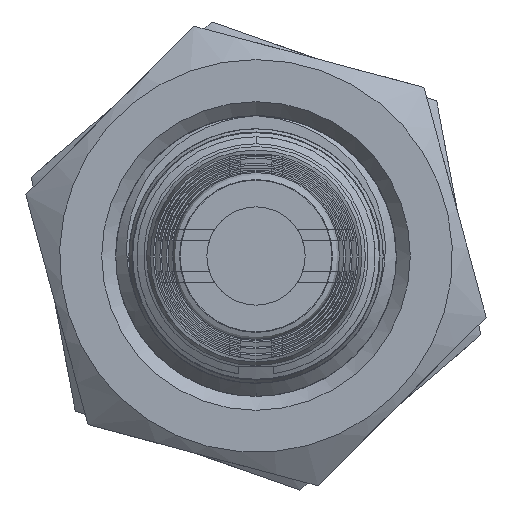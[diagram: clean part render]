
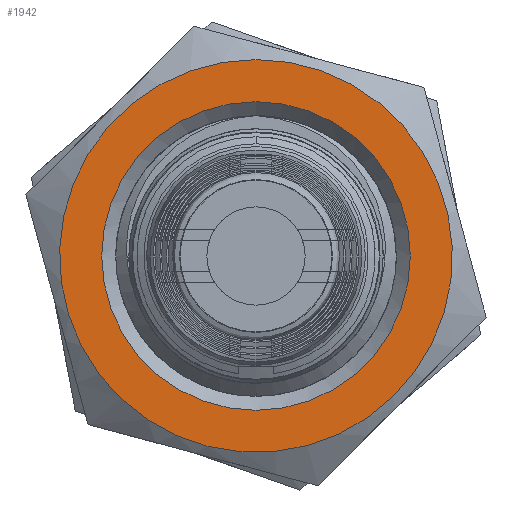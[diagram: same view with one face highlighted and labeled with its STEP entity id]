
A CAD part, front view. The second image highlights one B-rep face of the part: STEP entity #1942.
In plain terms, the highlighted planar face has unit normal (0, -1, 0).
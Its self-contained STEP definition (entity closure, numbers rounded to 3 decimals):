
#528=FACE_BOUND('',#3559,.T.);
#909=CIRCLE('',#11849,5.6);
#910=CIRCLE('',#11851,4.4);
#1942=ADVANCED_FACE('',(#528,#2911),#2444,.T.);
#2444=PLANE('',#11852);
#2911=FACE_OUTER_BOUND('',#3560,.T.);
#3559=EDGE_LOOP('',(#5328));
#3560=EDGE_LOOP('',(#5329));
#5328=ORIENTED_EDGE('',*,*,#9545,.T.);
#5329=ORIENTED_EDGE('',*,*,#9544,.T.);
#8111=VERTEX_POINT('',#20034);
#8112=VERTEX_POINT('',#20037);
#9544=EDGE_CURVE('',#8111,#8111,#909,.T.);
#9545=EDGE_CURVE('',#8112,#8112,#910,.T.);
#11849=AXIS2_PLACEMENT_3D('',#20033,#13509,#13510);
#11851=AXIS2_PLACEMENT_3D('',#20036,#13513,#13514);
#11852=AXIS2_PLACEMENT_3D('',#20038,#13515,#13516);
#13509=DIRECTION('',(0.,-1.,0.));
#13510=DIRECTION('',(0.,0.,1.));
#13513=DIRECTION('',(0.,1.,0.));
#13514=DIRECTION('',(0.,0.,1.));
#13515=DIRECTION('',(0.,-1.,0.));
#13516=DIRECTION('',(0.,0.,1.));
#20033=CARTESIAN_POINT('',(0.,-6.125,-25.));
#20034=CARTESIAN_POINT('',(0.,-6.125,-19.4));
#20036=CARTESIAN_POINT('',(0.,-6.125,-25.));
#20037=CARTESIAN_POINT('',(0.,-6.125,-20.6));
#20038=CARTESIAN_POINT('',(0.,-6.125,-25.));
